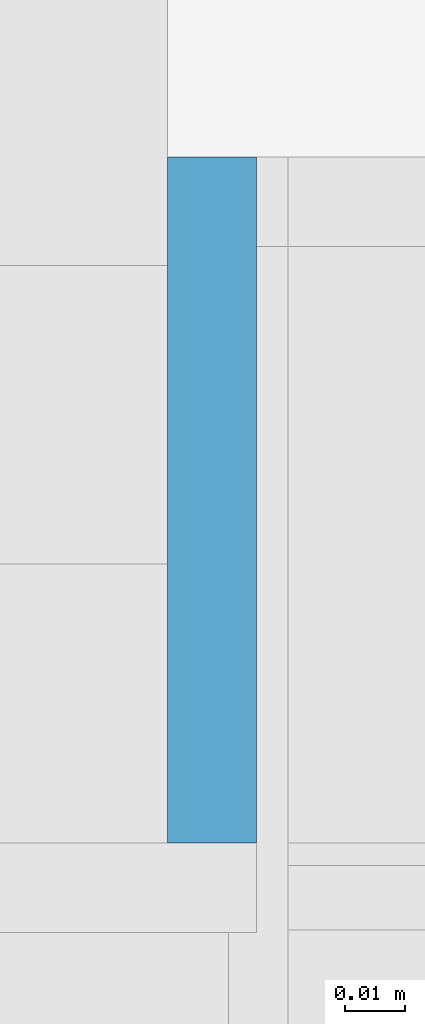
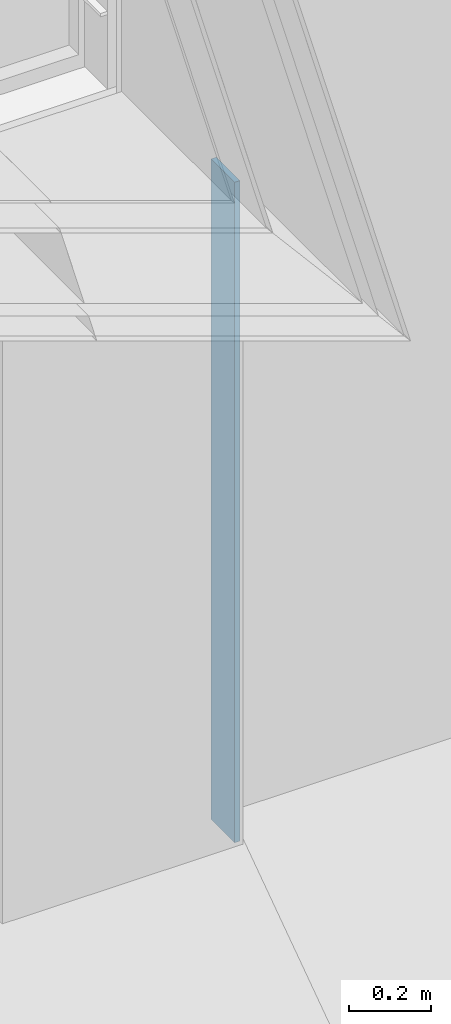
# One storey, part 271 of 583: 1 slab.
"""IFC2X3 building model written with IfcOpenShell, lengths in metres."""

from ifc_helpers import new_model, entity, si_unit, converted_unit, derived_unit, money_unit, direction, frame, origin_with_axes, place, context, subcontext, project, spatial, faceted_brep, material, type_object, element, save


model = new_model("IFC2X3")

# Units and contexts
model_context = context("Model", 3, precision=1e-05, world=origin_with_axes(), true_north=direction((0.0, 1.0)))
body_context = subcontext(model_context, "Body", "Model", "MODEL_VIEW", scale=1.0)
ifc_project = project(units=[si_unit("LENGTHUNIT", "METRE"), si_unit("AREAUNIT", "SQUARE_METRE"), si_unit("VOLUMEUNIT", "CUBIC_METRE"), si_unit("ABSORBEDDOSEUNIT", "GRAY"), si_unit("AMOUNTOFSUBSTANCEUNIT", "MOLE"), si_unit("DOSEEQUIVALENTUNIT", "SIEVERT"), si_unit("ELECTRICCAPACITANCEUNIT", "FARAD"), si_unit("ELECTRICCHARGEUNIT", "COULOMB"), si_unit("ELECTRICCONDUCTANCEUNIT", "SIEMENS"), si_unit("ELECTRICCURRENTUNIT", "AMPERE"), si_unit("ELECTRICRESISTANCEUNIT", "OHM"), si_unit("ELECTRICVOLTAGEUNIT", "VOLT"), si_unit("ENERGYUNIT", "JOULE"), si_unit("FORCEUNIT", "NEWTON"), si_unit("FREQUENCYUNIT", "HERTZ"), si_unit("ILLUMINANCEUNIT", "LUX"), si_unit("INDUCTANCEUNIT", "HENRY"), si_unit("LUMINOUSFLUXUNIT", "LUMEN"), si_unit("LUMINOUSINTENSITYUNIT", "CANDELA"), si_unit("MAGNETICFLUXDENSITYUNIT", "TESLA"), si_unit("MAGNETICFLUXUNIT", "WEBER"), si_unit("MASSUNIT", "GRAM"), converted_unit("PLANEANGLEUNIT", "degree", entity("IfcReal", 0.0174532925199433), si_unit("PLANEANGLEUNIT", "RADIAN"), dimensions=[0, 0, 0, 0, 0, 0, 0]), si_unit("POWERUNIT", "WATT"), si_unit("PRESSUREUNIT", "PASCAL"), si_unit("RADIOACTIVITYUNIT", "BECQUEREL"), si_unit("SOLIDANGLEUNIT", "STERADIAN"), si_unit("THERMODYNAMICTEMPERATUREUNIT", "KELVIN"), si_unit("TIMEUNIT", "SECOND"), derived_unit("ACCELERATIONUNIT", [(si_unit("LENGTHUNIT", "METRE"), 1), (si_unit("TIMEUNIT", "SECOND"), -2)]), derived_unit("ANGULARVELOCITYUNIT", [(converted_unit("PLANEANGLEUNIT", "degree", entity("IfcReal", 0.0174532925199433), si_unit("PLANEANGLEUNIT", "RADIAN"), dimensions=[0, 0, 0, 0, 0, 0, 0]), 1), (si_unit("TIMEUNIT", "SECOND"), -1)]), derived_unit("CURVATUREUNIT", [(converted_unit("PLANEANGLEUNIT", "degree", entity("IfcReal", 0.0174532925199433), si_unit("PLANEANGLEUNIT", "RADIAN"), dimensions=[0, 0, 0, 0, 0, 0, 0]), 1), (si_unit("LENGTHUNIT", "METRE"), -1)]), derived_unit("DYNAMICVISCOSITYUNIT", [(si_unit("PRESSUREUNIT", "PASCAL"), 1), (si_unit("TIMEUNIT", "SECOND"), 1)]), derived_unit("HEATFLUXDENSITYUNIT", [(si_unit("POWERUNIT", "WATT"), 1), (si_unit("LENGTHUNIT", "METRE"), -2)]), derived_unit("HEATINGVALUEUNIT", [(si_unit("ENERGYUNIT", "JOULE"), 1), (si_unit("MASSUNIT", "GRAM"), -1)]), derived_unit("INTEGERCOUNTRATEUNIT", [(si_unit("TIMEUNIT", "SECOND"), -1)]), derived_unit("IONCONCENTRATIONUNIT", [(si_unit("MASSUNIT", "GRAM"), 1), (si_unit("VOLUMEUNIT", "CUBIC_METRE"), -1)]), derived_unit("ISOTHERMALMOISTURECAPACITYUNIT", [(si_unit("VOLUMEUNIT", "CUBIC_METRE"), 1), (si_unit("MASSUNIT", "GRAM"), -1)]), derived_unit("KINEMATICVISCOSITYUNIT", [(si_unit("AREAUNIT", "SQUARE_METRE"), 1), (si_unit("TIMEUNIT", "SECOND"), -1)]), derived_unit("LINEARFORCEUNIT", [(si_unit("FORCEUNIT", "NEWTON"), 1), (si_unit("LENGTHUNIT", "METRE"), -1)]), derived_unit("LINEARMOMENTUNIT", [(si_unit("FORCEUNIT", "NEWTON"), 1), (si_unit("LENGTHUNIT", "METRE"), -1)]), derived_unit("LINEARSTIFFNESSUNIT", [(si_unit("FORCEUNIT", "NEWTON"), 1), (si_unit("LENGTHUNIT", "METRE"), -1)]), derived_unit("LINEARVELOCITYUNIT", [(si_unit("LENGTHUNIT", "METRE"), 1), (si_unit("TIMEUNIT", "SECOND"), -1)]), derived_unit("LUMINOUSINTENSITYDISTRIBUTIONUNIT", [(si_unit("LUMINOUSINTENSITYUNIT", "CANDELA"), 1), (si_unit("LUMINOUSFLUXUNIT", "LUMEN"), -1)]), derived_unit("MASSDENSITYUNIT", [(si_unit("MASSUNIT", "GRAM"), 1), (si_unit("VOLUMEUNIT", "CUBIC_METRE"), -1)]), derived_unit("MASSFLOWRATEUNIT", [(si_unit("MASSUNIT", "GRAM"), 1), (si_unit("TIMEUNIT", "SECOND"), -1)]), derived_unit("MASSPERLENGTHUNIT", [(si_unit("MASSUNIT", "GRAM"), 1), (si_unit("LENGTHUNIT", "METRE"), -1)]), derived_unit("MODULUSOFELASTICITYUNIT", [(si_unit("FORCEUNIT", "NEWTON"), 1), (si_unit("AREAUNIT", "SQUARE_METRE"), -1)]), derived_unit("MODULUSOFLINEARSUBGRADEREACTIONUNIT", [(si_unit("FORCEUNIT", "NEWTON"), 1), (si_unit("LENGTHUNIT", "METRE"), -2)]), derived_unit("MODULUSOFROTATIONALSUBGRADEREACTIONUNIT", [(si_unit("FORCEUNIT", "NEWTON"), 1), (si_unit("LENGTHUNIT", "METRE"), 1)]), derived_unit("MODULUSOFSUBGRADEREACTIONUNIT", [(si_unit("FORCEUNIT", "NEWTON"), 1), (si_unit("VOLUMEUNIT", "CUBIC_METRE"), -1)]), derived_unit("MOISTUREDIFFUSIVITYUNIT", [(si_unit("VOLUMEUNIT", "CUBIC_METRE"), 1), (si_unit("TIMEUNIT", "SECOND"), -1)]), derived_unit("MOLECULARWEIGHTUNIT", [(si_unit("MASSUNIT", "GRAM"), 1), (si_unit("AMOUNTOFSUBSTANCEUNIT", "MOLE"), -1)]), derived_unit("PLANARFORCEUNIT", [(si_unit("FORCEUNIT", "NEWTON"), 1), (si_unit("LENGTHUNIT", "METRE"), -2)]), derived_unit("ROTATIONALFREQUENCYUNIT", [(si_unit("TIMEUNIT", "SECOND"), -1)]), derived_unit("ROTATIONALMASSUNIT", [(si_unit("MASSUNIT", "GRAM"), 1), (si_unit("LENGTHUNIT", "METRE"), 2)]), derived_unit("ROTATIONALSTIFFNESSUNIT", [(si_unit("FORCEUNIT", "NEWTON"), 1), (si_unit("LENGTHUNIT", "METRE"), 1), (converted_unit("PLANEANGLEUNIT", "degree", entity("IfcReal", 0.0174532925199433), si_unit("PLANEANGLEUNIT", "RADIAN"), dimensions=[0, 0, 0, 0, 0, 0, 0]), -1)]), derived_unit("SECTIONAREAINTEGRALUNIT", [(si_unit("LENGTHUNIT", "METRE"), 5)]), derived_unit("SECTIONMODULUSUNIT", [(si_unit("LENGTHUNIT", "METRE"), 3)]), derived_unit("SHEARMODULUSUNIT", [(si_unit("FORCEUNIT", "NEWTON"), 1), (si_unit("AREAUNIT", "SQUARE_METRE"), -1)]), derived_unit("SOUNDPOWERUNIT", [(si_unit("ENERGYUNIT", "JOULE"), 1), (si_unit("TIMEUNIT", "SECOND"), -1)]), derived_unit("SPECIFICHEATCAPACITYUNIT", [(si_unit("FORCEUNIT", "NEWTON"), 1), (si_unit("MASSUNIT", "GRAM"), -1), (si_unit("THERMODYNAMICTEMPERATUREUNIT", "KELVIN"), -1)]), derived_unit("TEMPERATUREGRADIENTUNIT", [(si_unit("THERMODYNAMICTEMPERATUREUNIT", "KELVIN"), 1), (si_unit("LENGTHUNIT", "METRE"), -1)]), derived_unit("THERMALADMITTANCEUNIT", [(si_unit("POWERUNIT", "WATT"), 1), (si_unit("AREAUNIT", "SQUARE_METRE"), -1), (si_unit("THERMODYNAMICTEMPERATUREUNIT", "KELVIN"), -1)]), derived_unit("THERMALCONDUCTANCEUNIT", [(si_unit("POWERUNIT", "WATT"), 1), (si_unit("LENGTHUNIT", "METRE"), -1), (si_unit("THERMODYNAMICTEMPERATUREUNIT", "KELVIN"), -1)]), derived_unit("THERMALEXPANSIONCOEFFICIENTUNIT", [(si_unit("THERMODYNAMICTEMPERATUREUNIT", "KELVIN"), -1)]), derived_unit("THERMALRESISTANCEUNIT", [(si_unit("AREAUNIT", "SQUARE_METRE"), 1), (si_unit("POWERUNIT", "WATT"), -1)]), derived_unit("THERMALTRANSMITTANCEUNIT", [(si_unit("POWERUNIT", "WATT"), 1), (si_unit("AREAUNIT", "SQUARE_METRE"), -1), (si_unit("THERMODYNAMICTEMPERATUREUNIT", "KELVIN"), -1)]), derived_unit("TORQUEUNIT", [(si_unit("FORCEUNIT", "NEWTON"), 1), (si_unit("LENGTHUNIT", "METRE"), 1)]), derived_unit("VAPORPERMEABILITYUNIT", [(si_unit("MASSUNIT", "GRAM"), 1), (si_unit("TIMEUNIT", "SECOND"), -1)]), derived_unit("VOLUMETRICFLOWRATEUNIT", [(si_unit("VOLUMEUNIT", "CUBIC_METRE"), 1), (si_unit("TIMEUNIT", "SECOND"), -1)]), derived_unit("WARPINGCONSTANTUNIT", [(si_unit("LENGTHUNIT", "METRE"), 6)]), derived_unit("WARPINGMOMENTUNIT", [(si_unit("FORCEUNIT", "NEWTON"), 1), (si_unit("LENGTHUNIT", "METRE"), 2)]), money_unit("GBP")], contexts=[model_context])

# Site, building, storey
site_placement = place(None, origin_with_axes())
site = spatial("IfcSite", under=ifc_project, at=site_placement, Name="Site", CompositionType="ELEMENT")
building_placement = place(site_placement, origin_with_axes())
building = spatial("IfcBuilding", under=site, at=building_placement, Name="Building01", CompositionType="ELEMENT")
storey_placement = place(building_placement, frame((0.0, 0.0, 20.78), z_axis=(0.0, 0.0, 1.0), x_axis=(1.0, 0.0, 0.0)))
storey = spatial("IfcBuildingStorey", under=building, at=storey_placement, Name="RL", CompositionType="ELEMENT", Elevation=20.78)

# Slab
ifc_material = material(Name="A_BSUK_CeilingSoffitFinishes_Suspended")
slab_type = type_object("IfcSlabType", Name="A-FloorsSlabs A_BSUK_Slabs", PredefinedType="FLOOR")
slab_placement = place(storey_placement, frame((0.0, 0.0, -20.78), z_axis=(0.0, 0.0, 1.0), x_axis=(1.0, 0.0, 0.0)))
element("IfcSlab", 1, at=slab_placement, inside=storey, type_object=slab_type, material=ifc_material, Name="A-FloorsSlabs A_BSUK_Slabs", ObjectType="CompoundSlabLeaf", context=body_context, shape_type="Brep", body=[
    faceted_brep([(3.474708, 20.195, 4.760024), (3.459708, 20.195, 4.760024), (3.459708, 20.08, 4.760024), (3.474708, 20.08, 4.760024), (3.474708, 20.195, 2.798126), (3.459708, 20.195, 2.798126), (3.474708, 20.08, 2.798126), (3.459708, 20.08, 2.798126)], [[[0, 1, 2, 3]], [[4, 5, 1, 0]], [[6, 7, 5, 4]], [[3, 2, 7, 6]], [[1, 5, 7, 2]], [[3, 6, 4, 0]]]),
])

save(model, "model.ifc")
